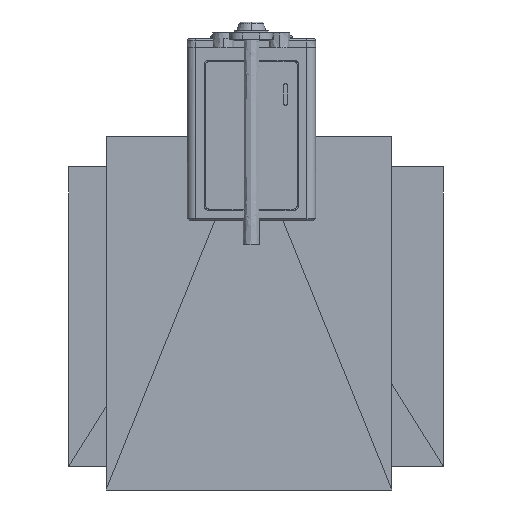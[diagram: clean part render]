
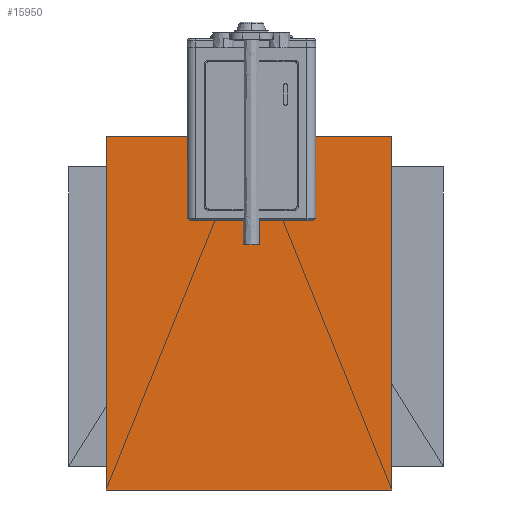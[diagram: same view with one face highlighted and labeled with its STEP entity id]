
A CAD part, front view. The second image highlights one B-rep face of the part: STEP entity #15950.
In plain terms, the highlighted free-form (B-spline) face has degree [1, 1] with [2, 2] control points.
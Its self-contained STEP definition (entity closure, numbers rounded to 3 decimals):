
#817 = VERTEX_POINT ( 'NONE', #10305 ) ;
#2857 = EDGE_LOOP ( 'NONE', ( #12685, #12326, #16726, #3198 ) ) ;
#3198 = ORIENTED_EDGE ( 'NONE', *, *, #14401, .T. ) ;
#3827 = FACE_OUTER_BOUND ( 'NONE', #2857, .T. ) ;
#5493 = CARTESIAN_POINT ( 'NONE',  ( -31.682, -1.376, -7.099 ) ) ;
#5846 = EDGE_CURVE ( 'NONE', #817, #22350, #13665, .T. ) ;
#5931 = CARTESIAN_POINT ( 'NONE',  ( -31.682, -2.816, 75.4 ) ) ;
#6801 = CARTESIAN_POINT ( 'NONE',  ( 34.982, -2.816, 75.4 ) ) ;
#8689 = VERTEX_POINT ( 'NONE', #18532 ) ;
#9428 = CARTESIAN_POINT ( 'NONE',  ( -31.682, -2.816, 75.4 ) ) ;
#9611 = B_SPLINE_CURVE_WITH_KNOTS ( 'NONE', 1,
 ( #19873, #21818 ),
 .UNSPECIFIED., .F., .F.,
 ( 2, 2 ),
 ( -82.512, 0. ),
 .UNSPECIFIED. ) ;
#9754 = CARTESIAN_POINT ( 'NONE',  ( 34.982, -2.816, 75.4 ) ) ;
#10305 = CARTESIAN_POINT ( 'NONE',  ( 34.982, -1.376, -7.099 ) ) ;
#10714 = B_SPLINE_SURFACE_WITH_KNOTS ( 'NONE', 1, 1, ( 
 ( #25620, #15516 ),
 ( #13659, #6801 ) ),
 .UNSPECIFIED., .F., .F., .F.,
 ( 2, 2 ),
 ( 2, 2 ),
 ( 0., 82.512 ),
 ( -81.682, -15.018 ),
 .UNSPECIFIED. ) ;
#12008 = B_SPLINE_CURVE_WITH_KNOTS ( 'NONE', 1,
 ( #15451, #9428 ),
 .UNSPECIFIED., .F., .F.,
 ( 2, 2 ),
 ( 0., 82.512 ),
 .UNSPECIFIED. ) ;
#12326 = ORIENTED_EDGE ( 'NONE', *, *, #5846, .T. ) ;
#12685 = ORIENTED_EDGE ( 'NONE', *, *, #13370, .T. ) ;
#13370 = EDGE_CURVE ( 'NONE', #17931, #817, #9611, .T. ) ;
#13659 = CARTESIAN_POINT ( 'NONE',  ( -31.682, -2.816, 75.4 ) ) ;
#13665 = B_SPLINE_CURVE_WITH_KNOTS ( 'NONE', 1,
 ( #19595, #5493 ),
 .UNSPECIFIED., .F., .F.,
 ( 2, 2 ),
 ( 15.018, 81.682 ),
 .UNSPECIFIED. ) ;
#13873 = CARTESIAN_POINT ( 'NONE',  ( 34.982, -2.816, 75.4 ) ) ;
#14401 = EDGE_CURVE ( 'NONE', #8689, #17931, #25014, .T. ) ;
#15451 = CARTESIAN_POINT ( 'NONE',  ( -31.682, -1.376, -7.099 ) ) ;
#15516 = CARTESIAN_POINT ( 'NONE',  ( 34.982, -1.376, -7.099 ) ) ;
#15950 = ADVANCED_FACE ( 'NONE', ( #3827 ), #10714, .T. ) ;
#16544 = CARTESIAN_POINT ( 'NONE',  ( -31.682, -1.376, -7.099 ) ) ;
#16726 = ORIENTED_EDGE ( 'NONE', *, *, #24912, .T. ) ;
#17931 = VERTEX_POINT ( 'NONE', #13873 ) ;
#18532 = CARTESIAN_POINT ( 'NONE',  ( -31.682, -2.816, 75.4 ) ) ;
#19595 = CARTESIAN_POINT ( 'NONE',  ( 34.982, -1.376, -7.099 ) ) ;
#19873 = CARTESIAN_POINT ( 'NONE',  ( 34.982, -2.816, 75.4 ) ) ;
#21818 = CARTESIAN_POINT ( 'NONE',  ( 34.982, -1.376, -7.099 ) ) ;
#22350 = VERTEX_POINT ( 'NONE', #16544 ) ;
#24912 = EDGE_CURVE ( 'NONE', #22350, #8689, #12008, .T. ) ;
#25014 = B_SPLINE_CURVE_WITH_KNOTS ( 'NONE', 1,
 ( #5931, #9754 ),
 .UNSPECIFIED., .F., .F.,
 ( 2, 2 ),
 ( -81.682, -15.018 ),
 .UNSPECIFIED. ) ;
#25620 = CARTESIAN_POINT ( 'NONE',  ( -31.682, -1.376, -7.099 ) ) ;
